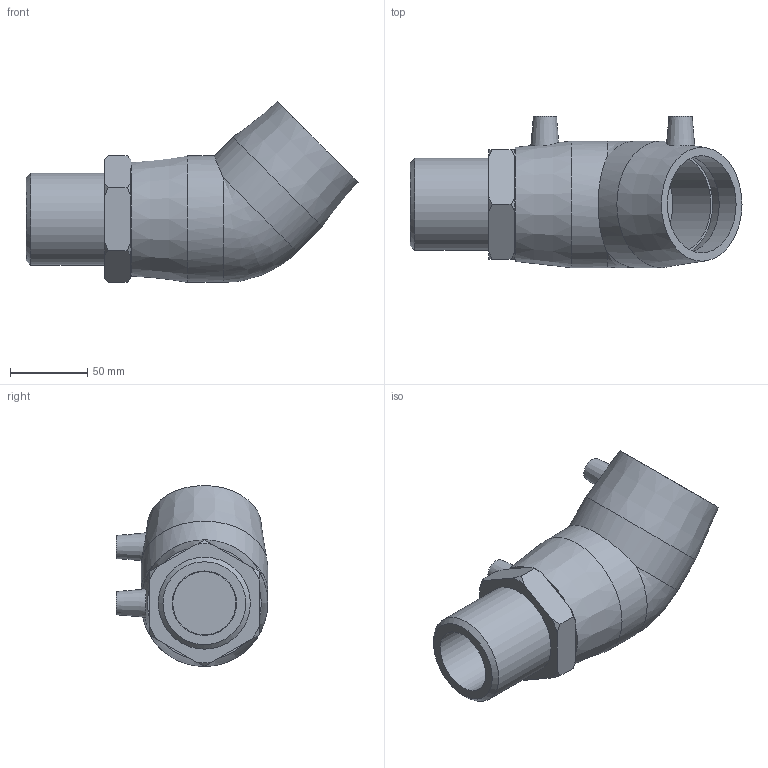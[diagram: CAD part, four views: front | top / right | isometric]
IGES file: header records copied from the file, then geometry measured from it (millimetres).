
Global section: file name: 492604063020N.ipt; native system: Autodesk Inventor 2015; preprocessor: unknown; author: KIM; date: 20200202.122430; units: millimetre
Bounding box: 215 x 98 x 117.17 mm (x, y, z)
Volume: 542818.5 mm3; surface area: 96745.8 mm2
Topology: 1 solids, 2 shells, 61 faces, 146 edges, 99 vertices
Faces by surface type: plane 25, cone 17, revolution 10, cylinder 8, bspline 1
Full cylindrical faces by diameter (mm): 4 x2, 59.614 x1, 63 x2, 82 x2
